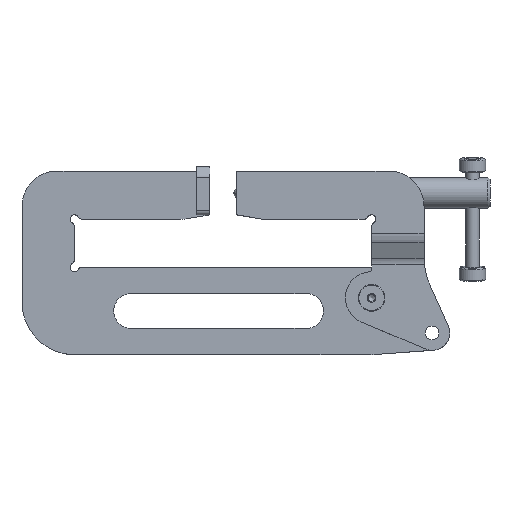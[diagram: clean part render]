
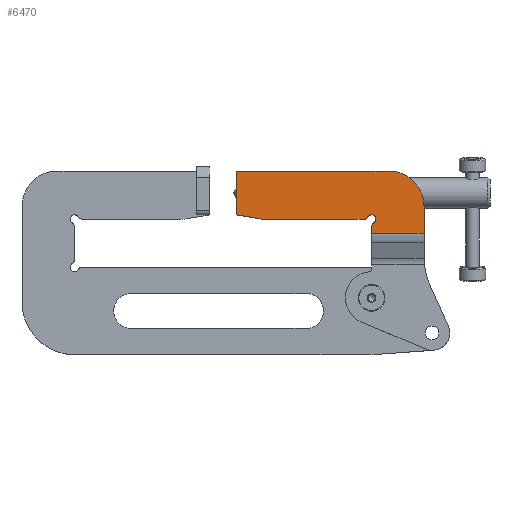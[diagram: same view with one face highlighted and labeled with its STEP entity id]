
A CAD part, top view. The second image highlights one B-rep face of the part: STEP entity #6470.
In plain terms, the highlighted planar face has unit normal (0, 0, 1).
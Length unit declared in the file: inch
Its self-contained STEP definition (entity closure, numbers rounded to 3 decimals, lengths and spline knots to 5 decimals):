
#87 = LINE ( 'NONE', #6910, #7982 ) ;
#114 = DIRECTION ( 'NONE',  ( 0., 0., 1. ) ) ;
#236 = VECTOR ( 'NONE', #1279, 39.37008 ) ;
#280 = DIRECTION ( 'NONE',  ( 0., -1., 0. ) ) ;
#823 = LINE ( 'NONE', #10456, #2879 ) ;
#936 = DIRECTION ( 'NONE',  ( 0.986, -0.164, 0. ) ) ;
#994 = CARTESIAN_POINT ( 'NONE',  ( 4.25, 0.06304, 0.5 ) ) ;
#1048 = CARTESIAN_POINT ( 'NONE',  ( 4.03349, 0.25, 0.5 ) ) ;
#1093 = EDGE_CURVE ( 'NONE', #9978, #6842, #1433, .T. ) ;
#1185 = ORIENTED_EDGE ( 'NONE', *, *, #1399, .T. ) ;
#1279 = DIRECTION ( 'NONE',  ( -1., 0., 0. ) ) ;
#1387 = CARTESIAN_POINT ( 'NONE',  ( 4.25, -0.09151, 0.5 ) ) ;
#1399 = EDGE_CURVE ( 'NONE', #10976, #10306, #8918, .T. ) ;
#1433 = CIRCLE ( 'NONE', #3407, 0.125 ) ;
#1464 = ORIENTED_EDGE ( 'NONE', *, *, #1976, .T. ) ;
#1551 = CARTESIAN_POINT ( 'NONE',  ( 5.98205, -3.18696, 0.5 ) ) ;
#1934 = VERTEX_POINT ( 'NONE', #10469 ) ;
#1976 = EDGE_CURVE ( 'NONE', #9113, #9010, #5787, .T. ) ;
#2272 = AXIS2_PLACEMENT_3D ( 'NONE', #1048, #7989, #9745 ) ;
#2489 = ORIENTED_EDGE ( 'NONE', *, *, #5020, .T. ) ;
#2751 = EDGE_CURVE ( 'NONE', #9010, #10976, #823, .T. ) ;
#2767 = VECTOR ( 'NONE', #10007, 39.37008 ) ;
#2879 = VECTOR ( 'NONE', #9465, 39.37008 ) ;
#3292 = PLANE ( 'NONE',  #8389 ) ;
#3328 = CARTESIAN_POINT ( 'NONE',  ( 0.375, 0.25, 0.5 ) ) ;
#3407 = AXIS2_PLACEMENT_3D ( 'NONE', #7846, #114, #5143 ) ;
#3476 = DIRECTION ( 'NONE',  ( 0., 0., 1. ) ) ;
#3571 = VERTEX_POINT ( 'NONE', #6857 ) ;
#4006 = LINE ( 'NONE', #6559, #2767 ) ;
#4091 = ORIENTED_EDGE ( 'NONE', *, *, #8341, .T. ) ;
#4129 = EDGE_CURVE ( 'NONE', #6140, #5056, #11069, .T. ) ;
#4426 = DIRECTION ( 'NONE',  ( 0., -1., 0. ) ) ;
#5020 = EDGE_CURVE ( 'NONE', #5056, #6842, #7128, .T. ) ;
#5056 = VERTEX_POINT ( 'NONE', #8945 ) ;
#5143 = DIRECTION ( 'NONE',  ( 1., 0., 0. ) ) ;
#5204 = DIRECTION ( 'NONE',  ( 0., 0., 1. ) ) ;
#5372 = DIRECTION ( 'NONE',  ( 0., 0., 1. ) ) ;
#5403 = VERTEX_POINT ( 'NONE', #1387 ) ;
#5563 = LINE ( 'NONE', #9019, #236 ) ;
#5683 = ORIENTED_EDGE ( 'NONE', *, *, #2751, .T. ) ;
#5787 = CIRCLE ( 'NONE', #6846, 1. ) ;
#5896 = DIRECTION ( 'NONE',  ( 1., 0., 0. ) ) ;
#5990 = DIRECTION ( 'NONE',  ( 1., 0., 0. ) ) ;
#6140 = VERTEX_POINT ( 'NONE', #10008 ) ;
#6149 = CARTESIAN_POINT ( 'NONE',  ( 5.75, 0.5, 0.5 ) ) ;
#6275 = DIRECTION ( 'NONE',  ( 1., 0., 0. ) ) ;
#6470 = ADVANCED_FACE ( 'NONE', ( #11021 ), #3292, .T. ) ;
#6477 = CARTESIAN_POINT ( 'NONE',  ( 0.375, 1.5, 0.5 ) ) ;
#6559 = CARTESIAN_POINT ( 'NONE',  ( 5.75, 1.5, 0.5 ) ) ;
#6842 = VERTEX_POINT ( 'NONE', #9335 ) ;
#6846 = AXIS2_PLACEMENT_3D ( 'NONE', #8791, #3476, #10526 ) ;
#6857 = CARTESIAN_POINT ( 'NONE',  ( 4.25, -0.27552, 0.5 ) ) ;
#6910 = CARTESIAN_POINT ( 'NONE',  ( 0.375, 0.25, 0.5 ) ) ;
#6965 = LINE ( 'NONE', #994, #10500 ) ;
#7009 = VECTOR ( 'NONE', #280, 39.37008 ) ;
#7128 = CIRCLE ( 'NONE', #2272, 0.125 ) ;
#7165 = CARTESIAN_POINT ( 'NONE',  ( 4.75, 1.5, 0.5 ) ) ;
#7431 = ORIENTED_EDGE ( 'NONE', *, *, #9689, .T. ) ;
#7846 = CARTESIAN_POINT ( 'NONE',  ( 4.25, 0.125, 0.5 ) ) ;
#7899 = EDGE_LOOP ( 'NONE', ( #8147, #9412, #1464, #5683, #1185, #7431, #10152, #2489, #10520, #4091, #10594 ) ) ;
#7982 = VECTOR ( 'NONE', #936, 39.37008 ) ;
#7989 = DIRECTION ( 'NONE',  ( 0., 0., 1. ) ) ;
#8069 = EDGE_CURVE ( 'NONE', #1934, #3571, #5563, .T. ) ;
#8147 = ORIENTED_EDGE ( 'NONE', *, *, #8069, .F. ) ;
#8341 = EDGE_CURVE ( 'NONE', #9978, #5403, #10687, .T. ) ;
#8389 = AXIS2_PLACEMENT_3D ( 'NONE', #1551, #5204, #5896 ) ;
#8629 = EDGE_CURVE ( 'NONE', #1934, #9113, #4006, .T. ) ;
#8791 = CARTESIAN_POINT ( 'NONE',  ( 4.75, 0.5, 0.5 ) ) ;
#8918 = LINE ( 'NONE', #6477, #7009 ) ;
#8945 = CARTESIAN_POINT ( 'NONE',  ( 4.03349, 0.125, 0.5 ) ) ;
#9010 = VERTEX_POINT ( 'NONE', #7165 ) ;
#9019 = CARTESIAN_POINT ( 'NONE',  ( 5.98205, -0.27552, 0.5 ) ) ;
#9113 = VERTEX_POINT ( 'NONE', #6149 ) ;
#9211 = CARTESIAN_POINT ( 'NONE',  ( 4.3125, 0.01675, 0.5 ) ) ;
#9335 = CARTESIAN_POINT ( 'NONE',  ( 4.14175, 0.1875, 0.5 ) ) ;
#9412 = ORIENTED_EDGE ( 'NONE', *, *, #8629, .T. ) ;
#9465 = DIRECTION ( 'NONE',  ( -1., 0., 0. ) ) ;
#9676 = CARTESIAN_POINT ( 'NONE',  ( 4.375, -0.09151, 0.5 ) ) ;
#9689 = EDGE_CURVE ( 'NONE', #10306, #6140, #87, .T. ) ;
#9745 = DIRECTION ( 'NONE',  ( 1., 0., 0. ) ) ;
#9790 = EDGE_CURVE ( 'NONE', #5403, #3571, #6965, .T. ) ;
#9978 = VERTEX_POINT ( 'NONE', #9211 ) ;
#10008 = CARTESIAN_POINT ( 'NONE',  ( 1.125, 0.125, 0.5 ) ) ;
#10007 = DIRECTION ( 'NONE',  ( 0., 1., 0. ) ) ;
#10152 = ORIENTED_EDGE ( 'NONE', *, *, #4129, .T. ) ;
#10236 = CARTESIAN_POINT ( 'NONE',  ( 1.125, 0.125, 0.5 ) ) ;
#10306 = VERTEX_POINT ( 'NONE', #3328 ) ;
#10318 = CARTESIAN_POINT ( 'NONE',  ( 0.375, 1.5, 0.5 ) ) ;
#10340 = AXIS2_PLACEMENT_3D ( 'NONE', #9676, #5372, #6275 ) ;
#10456 = CARTESIAN_POINT ( 'NONE',  ( 0.375, 1.5, 0.5 ) ) ;
#10469 = CARTESIAN_POINT ( 'NONE',  ( 5.75, -0.27552, 0.5 ) ) ;
#10500 = VECTOR ( 'NONE', #4426, 39.37008 ) ;
#10520 = ORIENTED_EDGE ( 'NONE', *, *, #1093, .F. ) ;
#10526 = DIRECTION ( 'NONE',  ( 1., 0., 0. ) ) ;
#10594 = ORIENTED_EDGE ( 'NONE', *, *, #9790, .T. ) ;
#10687 = CIRCLE ( 'NONE', #10340, 0.125 ) ;
#10739 = VECTOR ( 'NONE', #5990, 39.37008 ) ;
#10976 = VERTEX_POINT ( 'NONE', #10318 ) ;
#11021 = FACE_OUTER_BOUND ( 'NONE', #7899, .T. ) ;
#11069 = LINE ( 'NONE', #10236, #10739 ) ;
